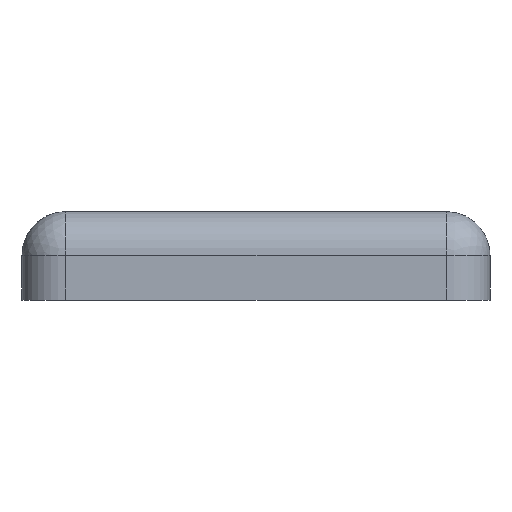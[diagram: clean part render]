
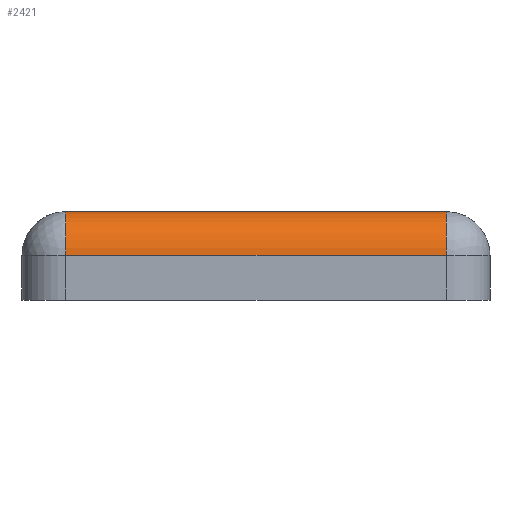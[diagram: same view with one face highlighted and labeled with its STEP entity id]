
A CAD part, left-side view. The second image highlights one B-rep face of the part: STEP entity #2421.
In plain terms, the highlighted cylindrical face has radius 3.4 mm (diameter 6.8 mm), a partial arc.
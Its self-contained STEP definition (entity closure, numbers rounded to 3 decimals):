
#150=LINE('',#4317,#308);
#232=LINE('',#4644,#390);
#308=VECTOR('',#3237,10.);
#390=VECTOR('',#3543,10.);
#448=CYLINDRICAL_SURFACE('',#2751,3.4);
#579=FACE_OUTER_BOUND('',#721,.T.);
#721=EDGE_LOOP('',(#2231,#2232,#2233,#2234));
#930=CIRCLE('',#2752,3.4);
#931=CIRCLE('',#2753,3.4);
#1084=VERTEX_POINT('',#4314);
#1085=VERTEX_POINT('',#4316);
#1157=VERTEX_POINT('',#4637);
#1158=VERTEX_POINT('',#4642);
#1383=EDGE_CURVE('',#1085,#1084,#150,.T.);
#1520=EDGE_CURVE('',#1084,#1158,#930,.T.);
#1521=EDGE_CURVE('',#1158,#1157,#232,.T.);
#1522=EDGE_CURVE('',#1157,#1085,#931,.T.);
#2231=ORIENTED_EDGE('',*,*,#1520,.T.);
#2232=ORIENTED_EDGE('',*,*,#1521,.T.);
#2233=ORIENTED_EDGE('',*,*,#1522,.T.);
#2234=ORIENTED_EDGE('',*,*,#1383,.T.);
#2421=ADVANCED_FACE('',(#579),#448,.T.);
#2751=AXIS2_PLACEMENT_3D('',#4641,#3539,#3540);
#2752=AXIS2_PLACEMENT_3D('',#4643,#3541,#3542);
#2753=AXIS2_PLACEMENT_3D('',#4645,#3544,#3545);
#3237=DIRECTION('',(0.,1.,0.));
#3539=DIRECTION('center_axis',(0.,-1.,0.));
#3540=DIRECTION('ref_axis',(-0.707,0.,0.707));
#3541=DIRECTION('center_axis',(0.,-1.,0.));
#3542=DIRECTION('ref_axis',(0.,0.,1.));
#3543=DIRECTION('',(0.,-1.,0.));
#3544=DIRECTION('center_axis',(0.,1.,0.));
#3545=DIRECTION('ref_axis',(-1.,0.,0.));
#4314=CARTESIAN_POINT('',(-18.85,14.85,11.4));
#4316=CARTESIAN_POINT('',(-18.85,-14.85,11.4));
#4317=CARTESIAN_POINT('',(-18.85,7.925,11.4));
#4637=CARTESIAN_POINT('',(-22.25,-14.85,8.));
#4641=CARTESIAN_POINT('Origin',(-18.85,7.925,8.));
#4642=CARTESIAN_POINT('',(-22.25,14.85,8.));
#4643=CARTESIAN_POINT('Origin',(-18.85,14.85,8.));
#4644=CARTESIAN_POINT('',(-22.25,7.925,8.));
#4645=CARTESIAN_POINT('Origin',(-18.85,-14.85,8.));
